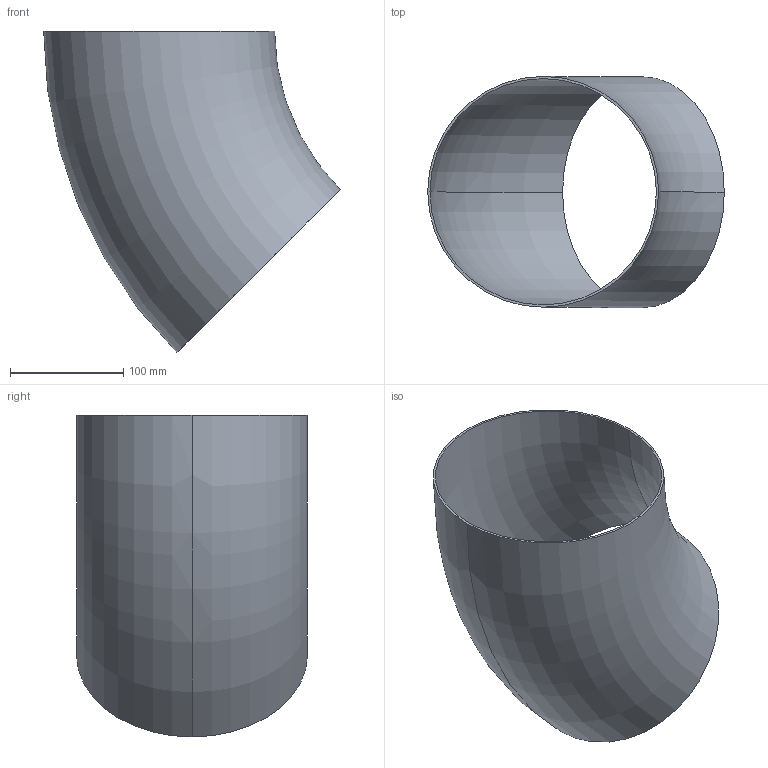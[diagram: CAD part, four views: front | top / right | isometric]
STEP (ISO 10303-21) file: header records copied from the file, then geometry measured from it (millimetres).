
FILE_DESCRIPTION (( 'STEP AP203' ), '1' );
FILE_NAME ('3D_R1650_204x2_17351800.STEP', '2024-08-03T09:16:36', ( '' ), ( '' ), 'SwSTEP 2.0', 'SolidWorks 2024', '' );
FILE_SCHEMA (( 'CONFIG_CONTROL_DESIGN' ));
Length unit declared in the file: millimetre
Products named in the file (1): 3D_R1650_204x2_17351800
Bounding box: 261.99 x 204 x 284.26 mm (x, y, z)
Volume: 299049 mm3; surface area: 301587.4 mm2
Topology: 1 solids, 1 shells, 6 faces, 12 edges, 8 vertices
Faces by surface type: torus 4, plane 2
Entity records: 249 total; most frequent: DIRECTION 38, CARTESIAN_POINT 27, ORIENTED_EDGE 24, AXIS2_PLACEMENT_3D 19, EDGE_CURVE 12, CIRCLE 12, VERTEX_POINT 8, PERSON_AND_ORGANIZATION 8
